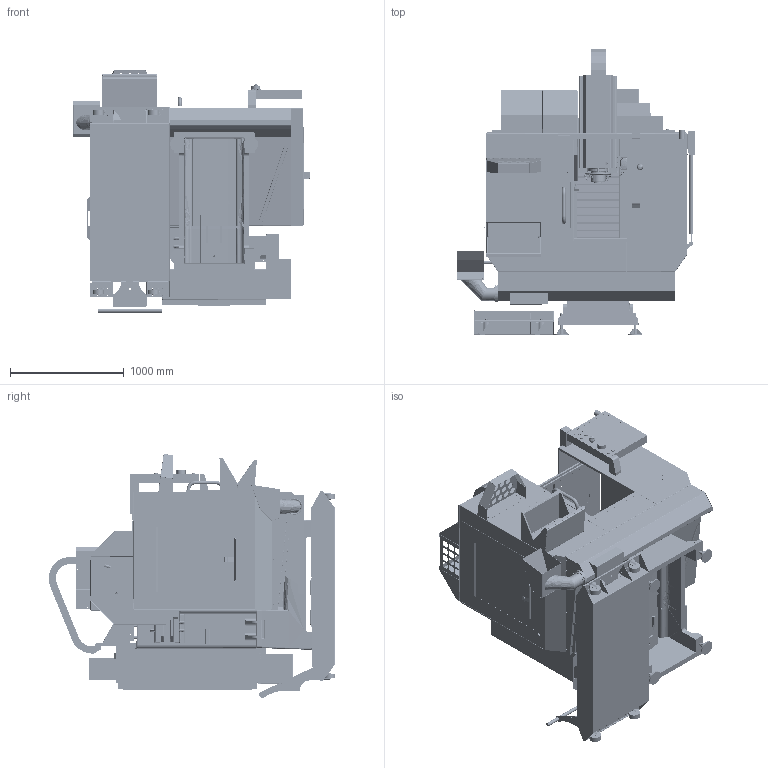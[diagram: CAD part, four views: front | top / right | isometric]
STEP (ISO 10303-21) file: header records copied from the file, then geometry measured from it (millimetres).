
FILE_DESCRIPTION (( 'STEP AP214' ), '1' );
FILE_NAME ('smm_solid_models_01_2024_Rev_2.STEP', '2024-01-31T16:28:39', ( '' ), ( '' ), 'SwSTEP 2.0', 'SolidWorks 2022', '' );
FILE_SCHEMA (( 'AUTOMOTIVE_DESIGN' ));
Length unit declared in the file: inch
Products named in the file (66): 10000207044; 59-0737; 10000244564; SPINDLE HEAD_smm_solid_models_01_2024_Rev_2.SLDASM-DEF; COLUMN_smm_solid_models_01_2024_Rev_2.SLDASM-DEF; 10000247410; 10000207055; 10000207045; 10000207051; PADS_smm_solid_models_01_2024_Rev_2.SLDASM-DEF; CONVENIENCE PACKAGE_smm_solid_models_01_2024_Rev_2.SLDASM-DEF; 10000214379; 30-SMTC-ARM_smm_solid_models_01_2024_Rev_2.SLDASM-DEF; 10000244548; 10000215971_defeature; ELECTRICAL CABINET_smm_solid_models_01_2024_Rev_2.SLDASM-DEF; 10000218398_37-6141; ENCLOSURE_smm_solid_models_01_2024_Rev_2.SLDASM-DEF; 10000207053; 10000194770; 10000244562; DOOR_smm_solid_models_01_2024_Rev_2.SLDASM-DEF; 45-1656; 10000214907; 10000207056; 10000244558; AIR (CALM) CABINET_smm_solid_models_01_2024_Rev_2.SLDASM-DEF; SIDE WINDOW_smm_solid_models_01_2024_Rev_2.SLDASM-DEF; 10000218570_defeature_Z AXIS WAYCOVER; 10000207054; 25-3979_02; 10000223782; 10000207052_Default<As Machined>; 59-1380; 10000244560; 10000173352; 10000218367_throft_defeature; SADDLE_smm_solid_models_01_2024_Rev_2.SLDASM-DEF; 10000223789; BASE_smm_solid_models_01_2024_Rev_2.SLDASM-DEF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
Assembly tree (78 placements, depth 6):
  smm_solid_models_01_2024_Rev_2
    ENCLOSURE_smm_solid_models_01_2024_Rev_2.SLDASM-DEF
      10000244550
      10000218367_throft_defeature
      10000215971_defeature
      10000218570_defeature_Z AXIS WAYCOVER
    AIR (CALM) CABINET_smm_solid_models_01_2024_Rev_2.SLDASM-DEF
      10000216079_1 CLOSED
    ELECTRICAL CABINET_smm_solid_models_01_2024_Rev_2.SLDASM-DEF
      10000216078_DOOR CLOSED
    BASE_smm_solid_models_01_2024_Rev_2.SLDASM-DEF
      10000244543_defeature_Base
    COLUMN_smm_solid_models_01_2024_Rev_2.SLDASM-DEF
      10000244543_defeature_Column
    DOOR_smm_solid_models_01_2024_Rev_2.SLDASM-DEF
      10000218367_defeature
      10000218367_handle_defeature
    SIDE WINDOW_smm_solid_models_01_2024_Rev_2.SLDASM-DEF
      10000244561
      10000244562
      10000244564
    PENDANT_smm_solid_models_01_2024_Rev_2.SLDASM-DEF
      10000223782
      10000244558
    PADS_smm_solid_models_01_2024_Rev_2.SLDASM-DEF
      10000214907
      10000223789
    TABLES_smm_solid_models_01_2024_Rev_2.SLDASM-DEF
      10000244548
    SADDLE_smm_solid_models_01_2024_Rev_2.SLDASM-DEF
      10000244543_defeature_Saddle
    SPINDLE HEAD_smm_solid_models_01_2024_Rev_2.SLDASM-DEF
      10000244549
      10000247397
      10000247410
    30-SMTC_smm_solid_models_01_2024_Rev_2.SLDASM-DEF
      10000218570_defeature_SMTC_SMM
    30-SMTC-ARM_smm_solid_models_01_2024_Rev_2.SLDASM-DEF
      10000247759
    45-GALLON COOLANT TANK_smm_solid_models_01_2024_Rev_2.SLDASM-DEF
      10000218398_37-6141
        10000214379
          10000207051
            10000207056
            10000207055  x2
            10000207054  x2
            10000207053
            10000207052_Default<As Machined>
          10000207043
            10000207045
            10000207044  x2
          10000194770
          10000173352  x4
          45-1656  x4
          46-1720  x4
          25-3979
            25-3979_01
            25-3979_02
            25-3979_03
            25-3979_04
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Bounding box: 2093.84 x 2521.72 x 2148.63 mm (x, y, z)
Volume: 491838933.9 mm3; surface area: 79170131.6 mm2
Topology: 185 solids, 329 shells, 21366 faces, 54831 edges, 34297 vertices
Faces by surface type: plane 10768, cylinder 7491, bspline 1332, cone 1057, torus 511, sphere 207
Full cylindrical faces by diameter (mm): 1.2 x5, 2 x5, 2.032 x2, 2.642 x2, 3.277 x2, 3.353 x8, 3.404 x80, 3.962 x1120, 4.039 x20, 4.064 x2, 4.166 x2, 4.216 x5, 4.343 x4, 4.369 x1, 4.762 x2, 4.763 x2, 4.775 x10, 4.801 x14, 4.826 x26, 4.953 x2, 4.978 x12, 5 x10, 5.105 x180, 5.232 x4, 5.41 x2, 6 x2, 6.325 x9, 6.35 x124, 6.528 x115, 6.6 x12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
Entity records: 862594 total; most frequent: CARTESIAN_POINT 202469, DIRECTION 97277, ORIENTED_EDGE 95516, EDGE_CURVE 47758, AXIS2_PLACEMENT_3D 34882, VERTEX_POINT 32154, EDGE_LOOP 31030, VECTOR 27513
